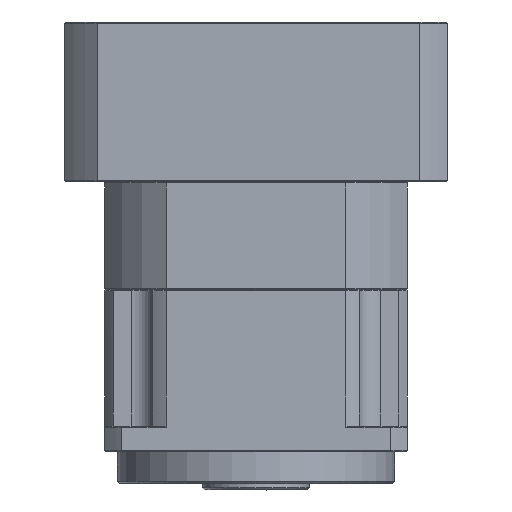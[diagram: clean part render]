
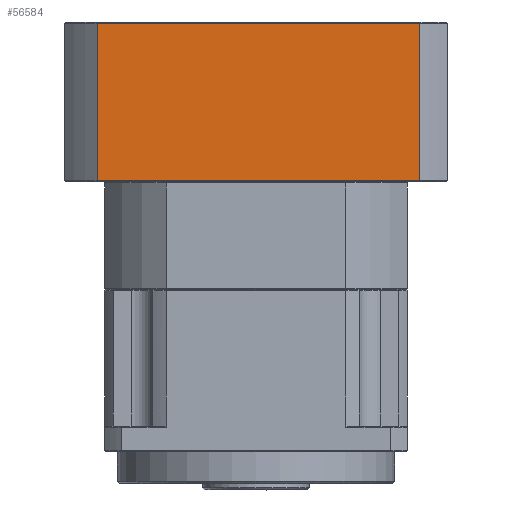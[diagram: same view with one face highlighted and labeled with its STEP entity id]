
A CAD part, front view. The second image highlights one B-rep face of the part: STEP entity #56584.
In plain terms, the highlighted planar face has unit normal (0, 1, 0).
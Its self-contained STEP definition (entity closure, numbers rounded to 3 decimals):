
#340 = LINE ( 'NONE', #86739, #18632 ) ;
#1992 = ORIENTED_EDGE ( 'NONE', *, *, #38017, .F. ) ;
#2580 = CARTESIAN_POINT ( 'NONE',  ( 1., -90., 127. ) ) ;
#9615 = EDGE_LOOP ( 'NONE', ( #27778, #1992, #44803, #77230 ) ) ;
#10622 = DIRECTION ( 'NONE',  ( 0., 0., 1. ) ) ;
#11011 = EDGE_CURVE ( 'NONE', #60712, #81613, #14581, .T. ) ;
#14581 = LINE ( 'NONE', #2580, #67160 ) ;
#16128 = CARTESIAN_POINT ( 'NONE',  ( 1., -90., 201. ) ) ;
#18632 = VECTOR ( 'NONE', #52555, 1000. ) ;
#27778 = ORIENTED_EDGE ( 'NONE', *, *, #46189, .T. ) ;
#30529 = DIRECTION ( 'NONE',  ( 0., 1., 0. ) ) ;
#33973 = EDGE_CURVE ( 'NONE', #72994, #60712, #340, .T. ) ;
#38017 = EDGE_CURVE ( 'NONE', #72994, #49641, #63829, .T. ) ;
#43472 = VECTOR ( 'NONE', #10622, 1000. ) ;
#43531 = VECTOR ( 'NONE', #78853, 1000. ) ;
#44803 = ORIENTED_EDGE ( 'NONE', *, *, #33973, .T. ) ;
#46189 = EDGE_CURVE ( 'NONE', #81613, #49641, #79847, .T. ) ;
#49641 = VERTEX_POINT ( 'NONE', #68177 ) ;
#50597 = DIRECTION ( 'NONE',  ( -1., 0., 0. ) ) ;
#51719 = CARTESIAN_POINT ( 'NONE',  ( -74.54, -90., 164. ) ) ;
#51810 = AXIS2_PLACEMENT_3D ( 'NONE', #71585, #30529, #78503 ) ;
#52555 = DIRECTION ( 'NONE',  ( 0., 0., -1. ) ) ;
#56584 = ADVANCED_FACE ( 'NONE', ( #56855 ), #78209, .T. ) ;
#56855 = FACE_OUTER_BOUND ( 'NONE', #9615, .T. ) ;
#60712 = VERTEX_POINT ( 'NONE', #79972 ) ;
#62019 = CARTESIAN_POINT ( 'NONE',  ( -74.54, -90., 127. ) ) ;
#63829 = LINE ( 'NONE', #16128, #43531 ) ;
#67160 = VECTOR ( 'NONE', #50597, 1000. ) ;
#68177 = CARTESIAN_POINT ( 'NONE',  ( -74.54, -90., 201. ) ) ;
#71220 = CARTESIAN_POINT ( 'NONE',  ( 76.54, -90., 201. ) ) ;
#71585 = CARTESIAN_POINT ( 'NONE',  ( -74.54, -90., 127. ) ) ;
#72994 = VERTEX_POINT ( 'NONE', #71220 ) ;
#77230 = ORIENTED_EDGE ( 'NONE', *, *, #11011, .T. ) ;
#78209 = PLANE ( 'NONE',  #51810 ) ;
#78503 = DIRECTION ( 'NONE',  ( 0., 0., 1. ) ) ;
#78853 = DIRECTION ( 'NONE',  ( -1., 0., 0. ) ) ;
#79847 = LINE ( 'NONE', #51719, #43472 ) ;
#79972 = CARTESIAN_POINT ( 'NONE',  ( 76.54, -90., 127. ) ) ;
#81613 = VERTEX_POINT ( 'NONE', #62019 ) ;
#86739 = CARTESIAN_POINT ( 'NONE',  ( 76.54, -90., 164. ) ) ;
